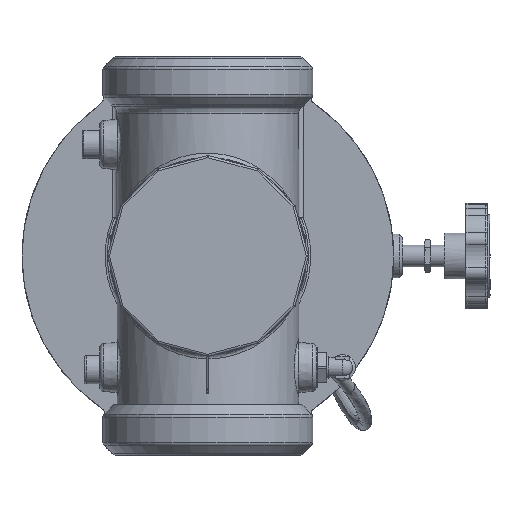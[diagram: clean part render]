
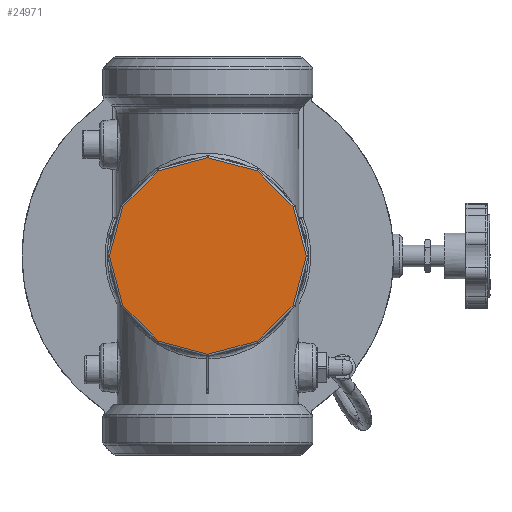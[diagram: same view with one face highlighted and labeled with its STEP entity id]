
A CAD part, front view. The second image highlights one B-rep face of the part: STEP entity #24971.
In plain terms, the highlighted planar face has unit normal (0, -1, 0).
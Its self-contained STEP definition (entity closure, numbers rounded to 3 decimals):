
#1892=PLANE('',#28027);
#3645=FACE_OUTER_BOUND('',#5266,.T.);
#5266=EDGE_LOOP('',(#22734,#22735,#22736,#22737,#22738,#22739,#22740,#22741,
#22742,#22743,#22744,#22745));
#6605=LINE('',#72156,#7988);
#6609=LINE('',#72165,#7992);
#6611=LINE('',#72168,#7994);
#6615=LINE('',#72177,#7998);
#6619=LINE('',#72186,#8002);
#6623=LINE('',#72195,#8006);
#6627=LINE('',#72204,#8010);
#6631=LINE('',#72213,#8014);
#6637=LINE('',#72228,#8020);
#6639=LINE('',#72231,#8022);
#6645=LINE('',#72246,#8028);
#6647=LINE('',#72249,#8030);
#7988=VECTOR('',#35008,23.275);
#7992=VECTOR('',#35018,23.275);
#7994=VECTOR('',#35022,23.275);
#7998=VECTOR('',#35032,23.275);
#8002=VECTOR('',#35042,23.275);
#8006=VECTOR('',#35052,23.275);
#8010=VECTOR('',#35062,23.275);
#8014=VECTOR('',#35072,23.275);
#8020=VECTOR('',#35088,23.275);
#8022=VECTOR('',#35092,23.275);
#8028=VECTOR('',#35108,23.275);
#8030=VECTOR('',#35112,23.275);
#11864=VERTEX_POINT('',#72073);
#11868=VERTEX_POINT('',#72082);
#11870=VERTEX_POINT('',#72087);
#11874=VERTEX_POINT('',#72096);
#11876=VERTEX_POINT('',#72101);
#11880=VERTEX_POINT('',#72110);
#11882=VERTEX_POINT('',#72115);
#11886=VERTEX_POINT('',#72124);
#11888=VERTEX_POINT('',#72129);
#11892=VERTEX_POINT('',#72138);
#11894=VERTEX_POINT('',#72143);
#11898=VERTEX_POINT('',#72152);
#15498=EDGE_CURVE('',#11894,#11898,#6605,.T.);
#15503=EDGE_CURVE('',#11898,#11892,#6609,.T.);
#15505=EDGE_CURVE('',#11888,#11894,#6611,.T.);
#15510=EDGE_CURVE('',#11892,#11886,#6615,.T.);
#15515=EDGE_CURVE('',#11882,#11888,#6619,.T.);
#15520=EDGE_CURVE('',#11886,#11880,#6623,.T.);
#15525=EDGE_CURVE('',#11876,#11882,#6627,.T.);
#15530=EDGE_CURVE('',#11880,#11874,#6631,.T.);
#15538=EDGE_CURVE('',#11870,#11876,#6637,.T.);
#15540=EDGE_CURVE('',#11874,#11868,#6639,.T.);
#15548=EDGE_CURVE('',#11864,#11870,#6645,.T.);
#15550=EDGE_CURVE('',#11868,#11864,#6647,.T.);
#22734=ORIENTED_EDGE('',*,*,#15498,.F.);
#22735=ORIENTED_EDGE('',*,*,#15505,.F.);
#22736=ORIENTED_EDGE('',*,*,#15515,.F.);
#22737=ORIENTED_EDGE('',*,*,#15525,.F.);
#22738=ORIENTED_EDGE('',*,*,#15538,.F.);
#22739=ORIENTED_EDGE('',*,*,#15548,.F.);
#22740=ORIENTED_EDGE('',*,*,#15550,.F.);
#22741=ORIENTED_EDGE('',*,*,#15540,.F.);
#22742=ORIENTED_EDGE('',*,*,#15530,.F.);
#22743=ORIENTED_EDGE('',*,*,#15520,.F.);
#22744=ORIENTED_EDGE('',*,*,#15510,.F.);
#22745=ORIENTED_EDGE('',*,*,#15503,.F.);
#24971=ADVANCED_FACE('',(#3645),#1892,.F.);
#28027=AXIS2_PLACEMENT_3D('',#72284,#35154,#35155);
#35008=DIRECTION('',(-0.259,0.,-0.966));
#35018=DIRECTION('',(-0.707,0.,-0.707));
#35022=DIRECTION('',(0.259,0.,-0.966));
#35032=DIRECTION('',(-0.966,0.,-0.259));
#35042=DIRECTION('',(0.707,0.,-0.707));
#35052=DIRECTION('',(-0.966,0.,0.259));
#35062=DIRECTION('',(0.966,0.,-0.259));
#35072=DIRECTION('',(-0.707,0.,0.707));
#35088=DIRECTION('',(0.966,0.,0.259));
#35092=DIRECTION('',(-0.259,0.,0.966));
#35108=DIRECTION('',(0.707,0.,0.707));
#35112=DIRECTION('',(0.259,0.,0.966));
#35154=DIRECTION('center_axis',(0.,1.,0.));
#35155=DIRECTION('ref_axis',(0.,0.,1.));
#72073=CARTESIAN_POINT('',(-38.941,-75.,-45.518));
#72082=CARTESIAN_POINT('',(-44.965,-75.,-68.));
#72087=CARTESIAN_POINT('',(-22.482,-75.,-29.059));
#72096=CARTESIAN_POINT('',(-38.941,-75.,-90.482));
#72101=CARTESIAN_POINT('',(0.,-75.,-23.035));
#72110=CARTESIAN_POINT('',(-22.482,-75.,-106.941));
#72115=CARTESIAN_POINT('',(22.482,-75.,-29.059));
#72124=CARTESIAN_POINT('',(0.,-75.,-112.965));
#72129=CARTESIAN_POINT('',(38.941,-75.,-45.518));
#72138=CARTESIAN_POINT('',(22.482,-75.,-106.941));
#72143=CARTESIAN_POINT('',(44.965,-75.,-68.));
#72152=CARTESIAN_POINT('',(38.941,-75.,-90.482));
#72156=CARTESIAN_POINT('',(44.965,-75.,-68.));
#72165=CARTESIAN_POINT('',(38.941,-75.,-90.482));
#72168=CARTESIAN_POINT('',(38.941,-75.,-45.518));
#72177=CARTESIAN_POINT('',(22.482,-75.,-106.941));
#72186=CARTESIAN_POINT('',(22.482,-75.,-29.059));
#72195=CARTESIAN_POINT('',(0.,-75.,-112.965));
#72204=CARTESIAN_POINT('',(0.,-75.,-23.035));
#72213=CARTESIAN_POINT('',(-22.482,-75.,-106.941));
#72228=CARTESIAN_POINT('',(-22.482,-75.,-29.059));
#72231=CARTESIAN_POINT('',(-38.941,-75.,-90.482));
#72246=CARTESIAN_POINT('',(-38.941,-75.,-45.518));
#72249=CARTESIAN_POINT('',(-44.965,-75.,-68.));
#72284=CARTESIAN_POINT('Origin',(0.,-75.,-68.));
